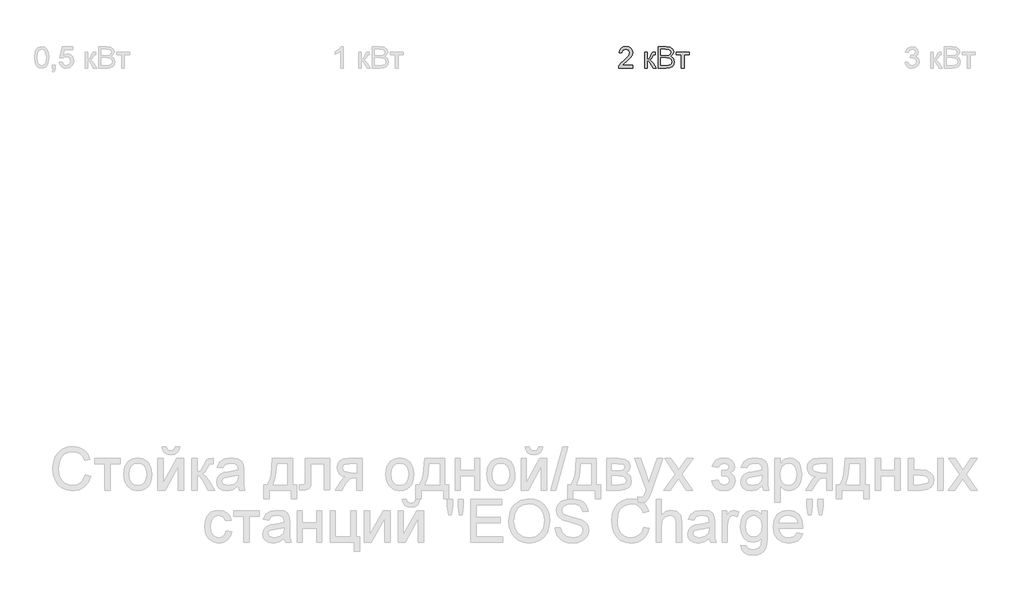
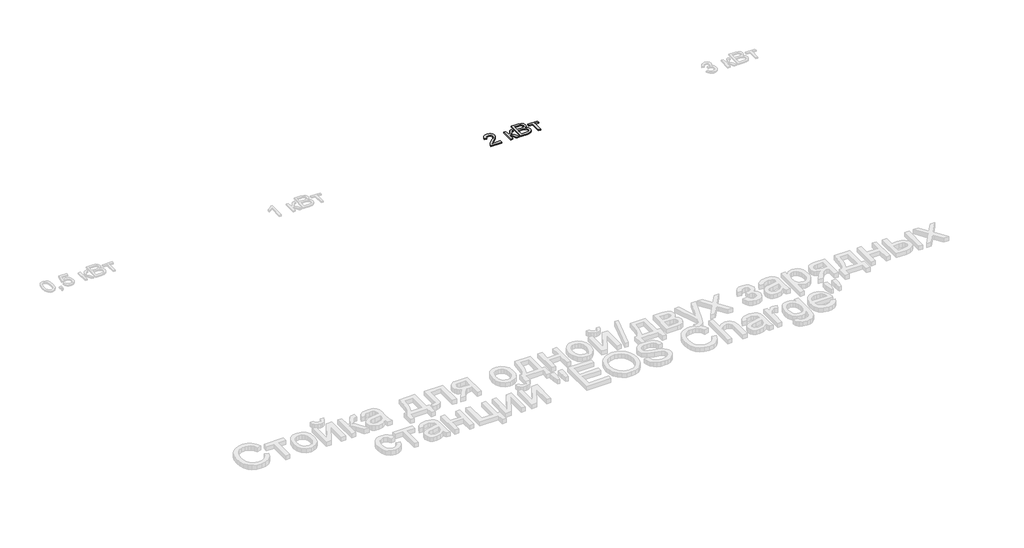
# One storey, part 10 of 26: 1 proxy.
"""IFC4 building model written with IfcOpenShell, lengths in millimetres."""

from ifc_helpers import new_model, si_unit, origin, origin_with_axes, place, context, project, spatial, polyline, outline, extrude, element, save

model = new_model("IFC4")

# Units and contexts
model_context = context("Model", 3, world=origin())
ifc_project = project(units=[si_unit("LENGTHUNIT", "METRE", prefix="MILLI")], contexts=[model_context])

# Site, building, storey
site = spatial("IfcSite", under=ifc_project)
building = spatial("IfcBuilding", under=site)
storey = spatial("IfcBuildingStorey", under=building, Name="Этаж 01", Elevation=0.0)

# Proxy
placement = place(None, origin())
element("IfcBuildingElementProxy", 1, Name="75 мм Arial", ObjectType="75 мм Arial", at=placement, inside=storey, context=model_context, shape_type="SweptSolid", body=[
    extrude(outline(polyline([(11560.1350931, -19645.2842708), (11560.1350931, -19654.7020499), (11510.691753, -19654.7020499), (11511.7034285, -19648.2089327), (11517.4239935, -19638.2117395), (11529.2146115, -19627.2948413), (11545.4749956, -19611.6046742), (11549.5400917, -19600.9360963), (11545.7049219, -19592.3000665), (11535.6893346, -19588.7775964), (11525.250683, -19592.217293), (11521.2867545, -19601.7270426), (11511.8689754, -19600.5498202), (11514.152143, -19591.4401423), (11519.0886595, -19584.7860767), (11526.4210076, -19580.7163821), (11535.8916697, -19579.3598173), (11545.4313097, -19580.8681335), (11552.7498621, -19585.393082), (11557.4058686, -19592.1529137), (11558.9578708, -19600.3658792), (11557.2840077, -19609.2962146), (11551.7197925, -19618.5300527), (11538.2277203, -19631.4335137), (11527.3935956, -19640.4926078), (11523.1445585, -19645.2842708), (11560.1350931, -19645.2842708)])), origin_with_axes(), (0.0, 0.0, 1.0), 5.0),
    extrude(outline(polyline([(11601.3378766, -19599.3725978), (11610.7556557, -19599.3725978), (11610.7556557, -19622.9170455), (11617.0648319, -19621.2247883), (11622.2335739, -19611.3655509), (11626.5285962, -19602.8582797), (11630.3177808, -19600.0899677), (11637.2063711, -19599.3725978), (11639.0089929, -19599.3725978), (11639.0089929, -19608.8455592), (11636.4706071, -19608.7903769), (11631.8720822, -19609.7836583), (11628.6347207, -19615.9824699), (11624.8363391, -19622.6871193), (11619.5112472, -19625.9704661), (11631.283471, -19637.3564138), (11641.3634377, -19654.7020499), (11630.6580716, -19654.7020499), (11620.7804401, -19637.7242958), (11615.8140331, -19630.5413999), (11610.7556557, -19628.8031574), (11610.7556557, -19654.7020499), (11601.3378766, -19654.7020499), (11601.3378766, -19599.3725978)])), origin_with_axes(), (0.0, 0.0, 1.0), 5.0),
    extrude(outline(polyline([(11648.426772, -19654.7020499), (11648.426772, -19579.3598173), (11677.1767499, -19579.3598173), (11691.2574333, -19581.5763063), (11699.5715664, -19588.3913203), (11702.5790017, -19598.0298285), (11700.049813, -19606.8314053), (11692.4070645, -19613.4992664), (11701.6868878, -19620.5258125), (11704.9334465, -19632.2428541), (11702.7169574, -19642.368806), (11697.2263187, -19649.5792931), (11689.0317472, -19653.4052659), (11676.9560207, -19654.7020499), (11648.426772, -19654.7020499)]), holes=[polyline([(11657.8445511, -19645.2842708), (11677.1583558, -19645.2842708), (11684.1481137, -19644.9163888), (11690.0618168, -19642.8654467), (11693.97976, -19638.680789), (11695.5156674, -19632.3348246), (11693.7130456, -19625.0139729), (11687.8729189, -19620.6453742), (11676.2386508, -19619.3853784), (11657.8445511, -19619.3853784), (11657.8445511, -19645.2842708)]), polyline([(11657.8445511, -19609.9675993), (11675.0430343, -19609.9675993), (11685.0862128, -19609.1582589), (11691.1286746, -19605.672577), (11693.1612226, -19599.5381447), (11691.2666303, -19593.3945154), (11685.8403709, -19589.7616807), (11673.7370533, -19588.7775964), (11657.8445511, -19588.7775964), (11657.8445511, -19609.9675993)])]), origin_with_axes(), (0.0, 0.0, 1.0), 5.0),
    extrude(outline(polyline([(11711.9967808, -19599.3725978), (11756.7312314, -19599.3725978), (11756.7312314, -19608.7903769), (11739.0728956, -19608.7903769), (11739.0728956, -19654.7020499), (11729.6551165, -19654.7020499), (11729.6551165, -19608.7903769), (11711.9967808, -19608.7903769), (11711.9967808, -19599.3725978)])), origin_with_axes(), (0.0, 0.0, 1.0), 5.0),
])

save(model, "model.ifc")
